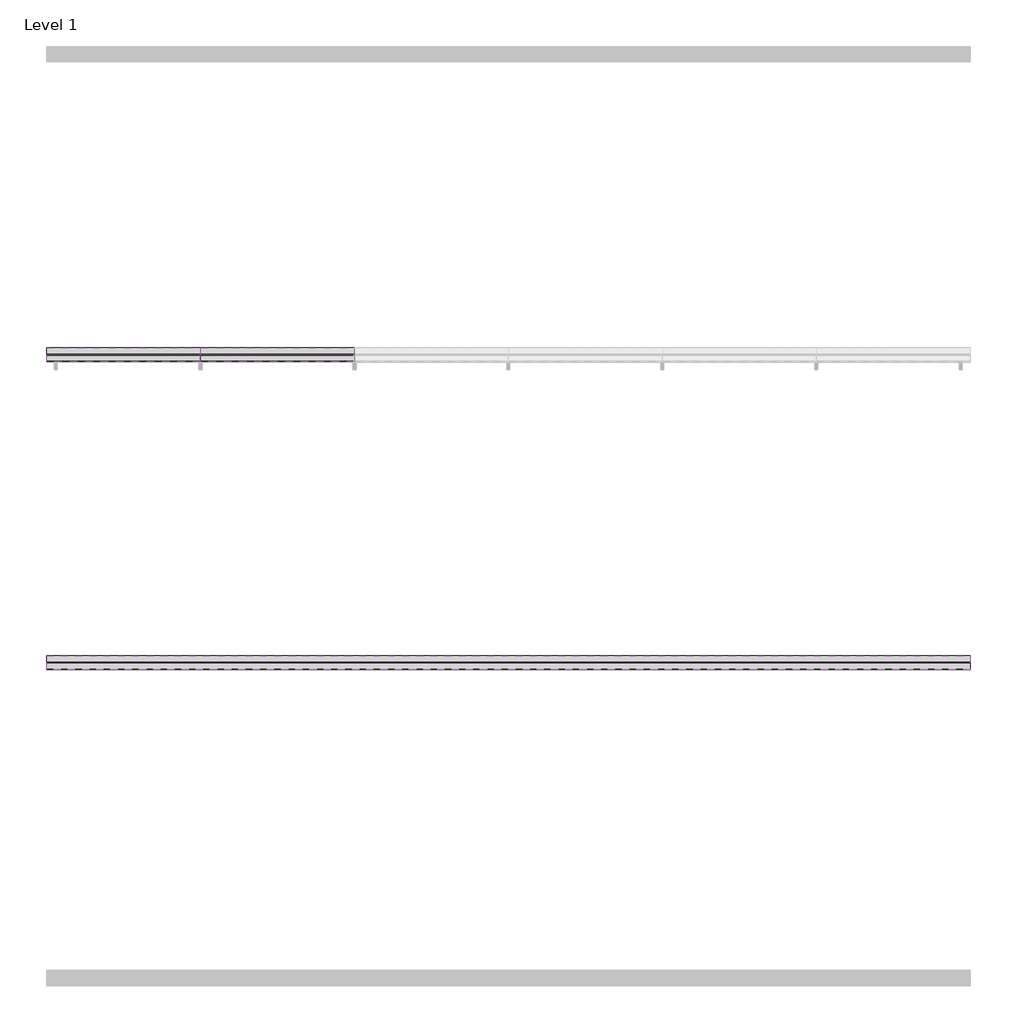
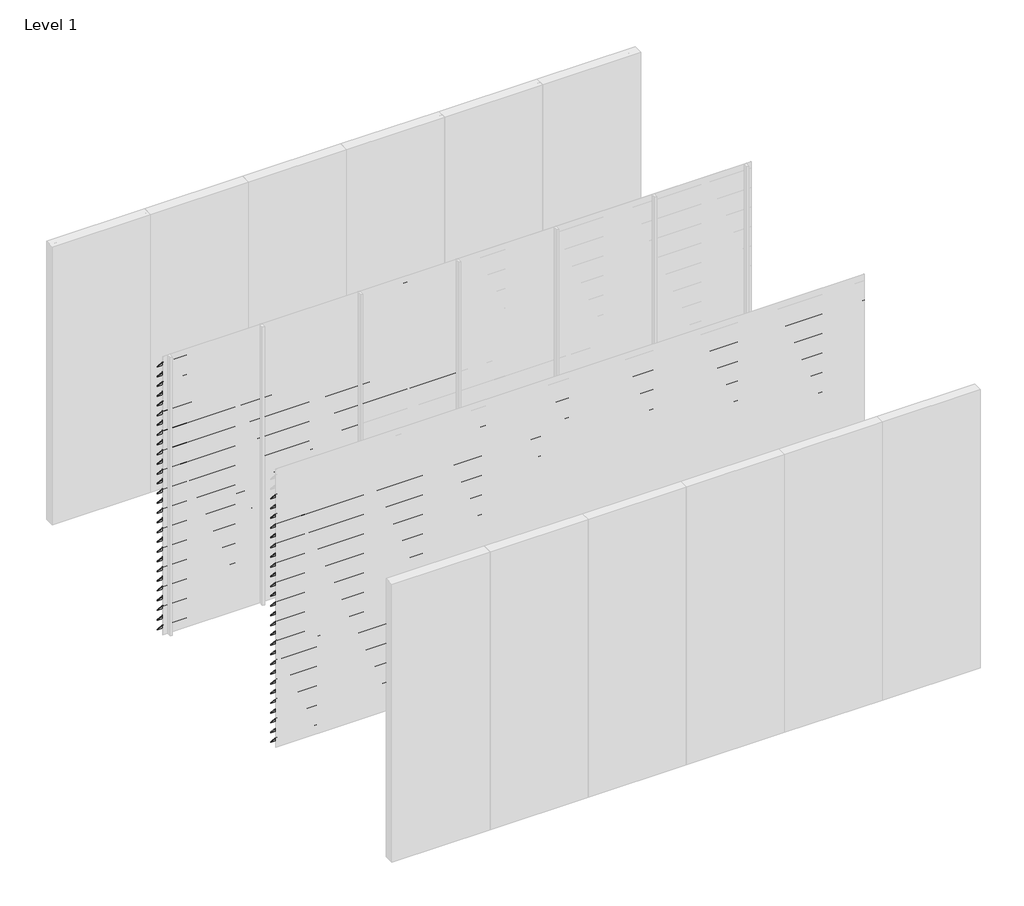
# One storey, part 6 of 9: 95 proxies.
"""IFC4 building model written with IfcOpenShell, lengths in millimetres."""

from ifc_helpers import new_model, si_unit, frame, origin, place, context, project, spatial, polyline, outline, extrude, element, save

model = new_model("IFC4")

# Units and contexts
model_context = context("Model", 3, world=origin())
ifc_project = project(units=[si_unit("LENGTHUNIT", "METRE", prefix="MILLI")], contexts=[model_context])

# Site, building, storey
site = spatial("IfcSite", under=ifc_project)
building = spatial("IfcBuilding", under=site)
storey = spatial("IfcBuildingStorey", under=building, Name="Level 1", Elevation=0.0)

# Proxies
placement = place(None, origin())
element("IfcBuildingElementProxy", 1, Name="Wall Sweeps", at=placement, inside=storey, context=model_context, shape_type="SweptSolid", body=[
    extrude(outline(polyline([(-5995.0, 2940.0), (-5995.0, 2935.6232888), (-5908.0, 2839.0), (-5908.0, 2829.0), (-5997.0, 2927.8445138), (-5997.0, 2940.0), (-5995.0, 2940.0)])), frame((0.0, 0.0, 0.0), z_axis=(1.0, 0.0, 0.0), x_axis=(0.0, 1.0, 0.0)), (0.0, 0.0, 1.0), 1000.0),
])
element("IfcBuildingElementProxy", 2, Name="Wall Sweeps", at=placement, inside=storey, context=model_context, shape_type="SweptSolid", body=[
    extrude(outline(polyline([(-5995.0, 2835.0), (-5995.0, 2830.6232888), (-5908.0, 2734.0), (-5908.0, 2724.0), (-5997.0, 2822.8445138), (-5997.0, 2835.0), (-5995.0, 2835.0)])), frame((0.0, 0.0, 0.0), z_axis=(1.0, 0.0, 0.0), x_axis=(0.0, 1.0, 0.0)), (0.0, 0.0, 1.0), 1000.0),
])
element("IfcBuildingElementProxy", 3, Name="Wall Sweeps", at=placement, inside=storey, context=model_context, shape_type="SweptSolid", body=[
    extrude(outline(polyline([(-5995.0, 2730.0), (-5995.0, 2725.6232888), (-5908.0, 2629.0), (-5908.0, 2619.0), (-5997.0, 2717.8445138), (-5997.0, 2730.0), (-5995.0, 2730.0)])), frame((0.0, 0.0, 0.0), z_axis=(1.0, 0.0, 0.0), x_axis=(0.0, 1.0, 0.0)), (0.0, 0.0, 1.0), 1000.0),
])
element("IfcBuildingElementProxy", 4, Name="Wall Sweeps", at=placement, inside=storey, context=model_context, shape_type="SweptSolid", body=[
    extrude(outline(polyline([(-5995.0, 2625.0), (-5995.0, 2620.6232888), (-5908.0, 2524.0), (-5908.0, 2514.0), (-5997.0, 2612.8445138), (-5997.0, 2625.0), (-5995.0, 2625.0)])), frame((0.0, 0.0, 0.0), z_axis=(1.0, 0.0, 0.0), x_axis=(0.0, 1.0, 0.0)), (0.0, 0.0, 1.0), 1000.0),
])
element("IfcBuildingElementProxy", 5, Name="Wall Sweeps", at=placement, inside=storey, context=model_context, shape_type="SweptSolid", body=[
    extrude(outline(polyline([(-5995.0, 2520.0), (-5995.0, 2515.6232888), (-5908.0, 2419.0), (-5908.0, 2409.0), (-5997.0, 2507.8445138), (-5997.0, 2520.0), (-5995.0, 2520.0)])), frame((0.0, 0.0, 0.0), z_axis=(1.0, 0.0, 0.0), x_axis=(0.0, 1.0, 0.0)), (0.0, 0.0, 1.0), 1000.0),
])
element("IfcBuildingElementProxy", 6, Name="Wall Sweeps", at=placement, inside=storey, context=model_context, shape_type="SweptSolid", body=[
    extrude(outline(polyline([(-5995.0, 2415.0), (-5995.0, 2410.6232888), (-5908.0, 2314.0), (-5908.0, 2304.0), (-5997.0, 2402.8445138), (-5997.0, 2415.0), (-5995.0, 2415.0)])), frame((0.0, 0.0, 0.0), z_axis=(1.0, 0.0, 0.0), x_axis=(0.0, 1.0, 0.0)), (0.0, 0.0, 1.0), 1000.0),
])
element("IfcBuildingElementProxy", 7, Name="Wall Sweeps", at=placement, inside=storey, context=model_context, shape_type="SweptSolid", body=[
    extrude(outline(polyline([(-5995.0, 2310.0), (-5995.0, 2305.6232888), (-5908.0, 2209.0), (-5908.0, 2199.0), (-5997.0, 2297.8445138), (-5997.0, 2310.0), (-5995.0, 2310.0)])), frame((0.0, 0.0, 0.0), z_axis=(1.0, 0.0, 0.0), x_axis=(0.0, 1.0, 0.0)), (0.0, 0.0, 1.0), 1000.0),
])
element("IfcBuildingElementProxy", 8, Name="Wall Sweeps", at=placement, inside=storey, context=model_context, shape_type="SweptSolid", body=[
    extrude(outline(polyline([(-5995.0, 2205.0), (-5995.0, 2200.6232888), (-5908.0, 2104.0), (-5908.0, 2094.0), (-5997.0, 2192.8445138), (-5997.0, 2205.0), (-5995.0, 2205.0)])), frame((0.0, 0.0, 0.0), z_axis=(1.0, 0.0, 0.0), x_axis=(0.0, 1.0, 0.0)), (0.0, 0.0, 1.0), 1000.0),
])
element("IfcBuildingElementProxy", 9, Name="Wall Sweeps", at=placement, inside=storey, context=model_context, shape_type="SweptSolid", body=[
    extrude(outline(polyline([(-5995.0, 2100.0), (-5995.0, 2095.6232888), (-5908.0, 1999.0), (-5908.0, 1989.0), (-5997.0, 2087.8445138), (-5997.0, 2100.0), (-5995.0, 2100.0)])), frame((0.0, 0.0, 0.0), z_axis=(1.0, 0.0, 0.0), x_axis=(0.0, 1.0, 0.0)), (0.0, 0.0, 1.0), 1000.0),
])
element("IfcBuildingElementProxy", 10, Name="Wall Sweeps", at=placement, inside=storey, context=model_context, shape_type="SweptSolid", body=[
    extrude(outline(polyline([(-5995.0, 1995.0), (-5995.0, 1990.6232888), (-5908.0, 1894.0), (-5908.0, 1884.0), (-5997.0, 1982.8445138), (-5997.0, 1995.0), (-5995.0, 1995.0)])), frame((0.0, 0.0, 0.0), z_axis=(1.0, 0.0, 0.0), x_axis=(0.0, 1.0, 0.0)), (0.0, 0.0, 1.0), 1000.0),
])
element("IfcBuildingElementProxy", 11, Name="Wall Sweeps", at=placement, inside=storey, context=model_context, shape_type="SweptSolid", body=[
    extrude(outline(polyline([(-5995.0, 1890.0), (-5995.0, 1885.6232888), (-5908.0, 1789.0), (-5908.0, 1779.0), (-5997.0, 1877.8445138), (-5997.0, 1890.0), (-5995.0, 1890.0)])), frame((0.0, 0.0, 0.0), z_axis=(1.0, 0.0, 0.0), x_axis=(0.0, 1.0, 0.0)), (0.0, 0.0, 1.0), 1000.0),
])
element("IfcBuildingElementProxy", 12, Name="Wall Sweeps", at=placement, inside=storey, context=model_context, shape_type="SweptSolid", body=[
    extrude(outline(polyline([(-5995.0, 1785.0), (-5995.0, 1780.6232888), (-5908.0, 1684.0), (-5908.0, 1674.0), (-5997.0, 1772.8445138), (-5997.0, 1785.0), (-5995.0, 1785.0)])), frame((0.0, 0.0, 0.0), z_axis=(1.0, 0.0, 0.0), x_axis=(0.0, 1.0, 0.0)), (0.0, 0.0, 1.0), 1000.0),
])
element("IfcBuildingElementProxy", 13, Name="Wall Sweeps", at=placement, inside=storey, context=model_context, shape_type="SweptSolid", body=[
    extrude(outline(polyline([(-5995.0, 1680.0), (-5995.0, 1675.6232888), (-5908.0, 1579.0), (-5908.0, 1569.0), (-5997.0, 1667.8445138), (-5997.0, 1680.0), (-5995.0, 1680.0)])), frame((0.0, 0.0, 0.0), z_axis=(1.0, 0.0, 0.0), x_axis=(0.0, 1.0, 0.0)), (0.0, 0.0, 1.0), 1000.0),
])
element("IfcBuildingElementProxy", 14, Name="Wall Sweeps", at=placement, inside=storey, context=model_context, shape_type="SweptSolid", body=[
    extrude(outline(polyline([(-5995.0, 1575.0), (-5995.0, 1570.6232888), (-5908.0, 1474.0), (-5908.0, 1464.0), (-5997.0, 1562.8445138), (-5997.0, 1575.0), (-5995.0, 1575.0)])), frame((0.0, 0.0, 0.0), z_axis=(1.0, 0.0, 0.0), x_axis=(0.0, 1.0, 0.0)), (0.0, 0.0, 1.0), 1000.0),
])
element("IfcBuildingElementProxy", 15, Name="Wall Sweeps", at=placement, inside=storey, context=model_context, shape_type="SweptSolid", body=[
    extrude(outline(polyline([(-5995.0, 1470.0), (-5995.0, 1465.6232888), (-5908.0, 1369.0), (-5908.0, 1359.0), (-5997.0, 1457.8445138), (-5997.0, 1470.0), (-5995.0, 1470.0)])), frame((0.0, 0.0, 0.0), z_axis=(1.0, 0.0, 0.0), x_axis=(0.0, 1.0, 0.0)), (0.0, 0.0, 1.0), 1000.0),
])
element("IfcBuildingElementProxy", 16, Name="Wall Sweeps", at=placement, inside=storey, context=model_context, shape_type="SweptSolid", body=[
    extrude(outline(polyline([(-5995.0, 1365.0), (-5995.0, 1360.6232888), (-5908.0, 1264.0), (-5908.0, 1254.0), (-5997.0, 1352.8445138), (-5997.0, 1365.0), (-5995.0, 1365.0)])), frame((0.0, 0.0, 0.0), z_axis=(1.0, 0.0, 0.0), x_axis=(0.0, 1.0, 0.0)), (0.0, 0.0, 1.0), 1000.0),
])
element("IfcBuildingElementProxy", 17, Name="Wall Sweeps", at=placement, inside=storey, context=model_context, shape_type="SweptSolid", body=[
    extrude(outline(polyline([(-5995.0, 1260.0), (-5995.0, 1255.6232888), (-5908.0, 1159.0), (-5908.0, 1149.0), (-5997.0, 1247.8445138), (-5997.0, 1260.0), (-5995.0, 1260.0)])), frame((0.0, 0.0, 0.0), z_axis=(1.0, 0.0, 0.0), x_axis=(0.0, 1.0, 0.0)), (0.0, 0.0, 1.0), 1000.0),
])
element("IfcBuildingElementProxy", 18, Name="Wall Sweeps", at=placement, inside=storey, context=model_context, shape_type="SweptSolid", body=[
    extrude(outline(polyline([(-5995.0, 1155.0), (-5995.0, 1150.6232888), (-5908.0, 1054.0), (-5908.0, 1044.0), (-5997.0, 1142.8445138), (-5997.0, 1155.0), (-5995.0, 1155.0)])), frame((0.0, 0.0, 0.0), z_axis=(1.0, 0.0, 0.0), x_axis=(0.0, 1.0, 0.0)), (0.0, 0.0, 1.0), 1000.0),
])
element("IfcBuildingElementProxy", 19, Name="Wall Sweeps", at=placement, inside=storey, context=model_context, shape_type="SweptSolid", body=[
    extrude(outline(polyline([(-5995.0, 1050.0), (-5995.0, 1045.6232888), (-5908.0, 949.0), (-5908.0, 939.0), (-5997.0, 1037.8445138), (-5997.0, 1050.0), (-5995.0, 1050.0)])), frame((0.0, 0.0, 0.0), z_axis=(1.0, 0.0, 0.0), x_axis=(0.0, 1.0, 0.0)), (0.0, 0.0, 1.0), 1000.0),
])
element("IfcBuildingElementProxy", 20, Name="Wall Sweeps", at=placement, inside=storey, context=model_context, shape_type="SweptSolid", body=[
    extrude(outline(polyline([(-5995.0, 945.0), (-5995.0, 940.6232888), (-5908.0, 844.0), (-5908.0, 834.0), (-5997.0, 932.8445138), (-5997.0, 945.0), (-5995.0, 945.0)])), frame((0.0, 0.0, 0.0), z_axis=(1.0, 0.0, 0.0), x_axis=(0.0, 1.0, 0.0)), (0.0, 0.0, 1.0), 1000.0),
])
element("IfcBuildingElementProxy", 21, Name="Wall Sweeps", at=placement, inside=storey, context=model_context, shape_type="SweptSolid", body=[
    extrude(outline(polyline([(-5995.0, 840.0), (-5995.0, 835.6232888), (-5908.0, 739.0), (-5908.0, 729.0), (-5997.0, 827.8445138), (-5997.0, 840.0), (-5995.0, 840.0)])), frame((0.0, 0.0, 0.0), z_axis=(1.0, 0.0, 0.0), x_axis=(0.0, 1.0, 0.0)), (0.0, 0.0, 1.0), 1000.0),
])
element("IfcBuildingElementProxy", 22, Name="Wall Sweeps", at=placement, inside=storey, context=model_context, shape_type="SweptSolid", body=[
    extrude(outline(polyline([(-5995.0, 735.0), (-5995.0, 730.6232888), (-5908.0, 634.0), (-5908.0, 624.0), (-5997.0, 722.8445138), (-5997.0, 735.0), (-5995.0, 735.0)])), frame((0.0, 0.0, 0.0), z_axis=(1.0, 0.0, 0.0), x_axis=(0.0, 1.0, 0.0)), (0.0, 0.0, 1.0), 1000.0),
])
element("IfcBuildingElementProxy", 23, Name="Wall Sweeps", at=placement, inside=storey, context=model_context, shape_type="SweptSolid", body=[
    extrude(outline(polyline([(-5995.0, 630.0), (-5995.0, 625.6232888), (-5908.0, 529.0), (-5908.0, 519.0), (-5997.0, 617.8445138), (-5997.0, 630.0), (-5995.0, 630.0)])), frame((0.0, 0.0, 0.0), z_axis=(1.0, 0.0, 0.0), x_axis=(0.0, 1.0, 0.0)), (0.0, 0.0, 1.0), 1000.0),
])
element("IfcBuildingElementProxy", 24, Name="Wall Sweeps", at=placement, inside=storey, context=model_context, shape_type="SweptSolid", body=[
    extrude(outline(polyline([(-5995.0, 525.0), (-5995.0, 520.6232888), (-5908.0, 424.0), (-5908.0, 414.0), (-5997.0, 512.8445138), (-5997.0, 525.0), (-5995.0, 525.0)])), frame((0.0, 0.0, 0.0), z_axis=(1.0, 0.0, 0.0), x_axis=(0.0, 1.0, 0.0)), (0.0, 0.0, 1.0), 1000.0),
])
element("IfcBuildingElementProxy", 25, Name="Wall Sweeps", at=placement, inside=storey, context=model_context, shape_type="SweptSolid", body=[
    extrude(outline(polyline([(-5995.0, 420.0), (-5995.0, 415.6232888), (-5908.0, 319.0), (-5908.0, 309.0), (-5997.0, 407.8445138), (-5997.0, 420.0), (-5995.0, 420.0)])), frame((0.0, 0.0, 0.0), z_axis=(1.0, 0.0, 0.0), x_axis=(0.0, 1.0, 0.0)), (0.0, 0.0, 1.0), 1000.0),
])
element("IfcBuildingElementProxy", 26, Name="Wall Sweeps", at=placement, inside=storey, context=model_context, shape_type="SweptSolid", body=[
    extrude(outline(polyline([(-5995.0, 315.0), (-5995.0, 310.6232888), (-5908.0, 214.0), (-5908.0, 204.0), (-5997.0, 302.8445138), (-5997.0, 315.0), (-5995.0, 315.0)])), frame((0.0, 0.0, 0.0), z_axis=(1.0, 0.0, 0.0), x_axis=(0.0, 1.0, 0.0)), (0.0, 0.0, 1.0), 1000.0),
])
element("IfcBuildingElementProxy", 27, Name="Wall Sweeps", at=placement, inside=storey, context=model_context, shape_type="SweptSolid", body=[
    extrude(outline(polyline([(-5995.0, 210.0), (-5995.0, 205.6232888), (-5908.0, 109.0), (-5908.0, 99.0), (-5997.0, 197.8445138), (-5997.0, 210.0), (-5995.0, 210.0)])), frame((0.0, 0.0, 0.0), z_axis=(1.0, 0.0, 0.0), x_axis=(0.0, 1.0, 0.0)), (0.0, 0.0, 1.0), 1000.0),
])
element("IfcBuildingElementProxy", 28, Name="Wall Sweeps", at=placement, inside=storey, context=model_context, shape_type="SweptSolid", body=[
    extrude(outline(polyline([(-5995.0, 105.0), (-5995.0, 100.6232888), (-5908.0, 4.0), (-5908.0, -6.0), (-5997.0, 92.8445138), (-5997.0, 105.0), (-5995.0, 105.0)])), frame((0.0, 0.0, 0.0), z_axis=(1.0, 0.0, 0.0), x_axis=(0.0, 1.0, 0.0)), (0.0, 0.0, 1.0), 1000.0),
])
element("IfcBuildingElementProxy", 29, Name="Wall Sweeps", at=placement, inside=storey, context=model_context, shape_type="SweptSolid", body=[
    extrude(outline(polyline([(-5995.0, 2940.0), (-5995.0, 2935.6232888), (-5908.0, 2839.0), (-5908.0, 2829.0), (-5997.0, 2927.8445138), (-5997.0, 2940.0), (-5995.0, 2940.0)])), frame((1000.0, 0.0, 0.0), z_axis=(1.0, 0.0, 0.0), x_axis=(0.0, 1.0, 0.0)), (0.0, 0.0, 1.0), 1000.0),
])
element("IfcBuildingElementProxy", 30, Name="Wall Sweeps", at=placement, inside=storey, context=model_context, shape_type="SweptSolid", body=[
    extrude(outline(polyline([(-5995.0, 2835.0), (-5995.0, 2830.6232888), (-5908.0, 2734.0), (-5908.0, 2724.0), (-5997.0, 2822.8445138), (-5997.0, 2835.0), (-5995.0, 2835.0)])), frame((1000.0, 0.0, 0.0), z_axis=(1.0, 0.0, 0.0), x_axis=(0.0, 1.0, 0.0)), (0.0, 0.0, 1.0), 1000.0),
])
element("IfcBuildingElementProxy", 31, Name="Wall Sweeps", at=placement, inside=storey, context=model_context, shape_type="SweptSolid", body=[
    extrude(outline(polyline([(-5995.0, 2730.0), (-5995.0, 2725.6232888), (-5908.0, 2629.0), (-5908.0, 2619.0), (-5997.0, 2717.8445138), (-5997.0, 2730.0), (-5995.0, 2730.0)])), frame((1000.0, 0.0, 0.0), z_axis=(1.0, 0.0, 0.0), x_axis=(0.0, 1.0, 0.0)), (0.0, 0.0, 1.0), 1000.0),
])
element("IfcBuildingElementProxy", 32, Name="Wall Sweeps", at=placement, inside=storey, context=model_context, shape_type="SweptSolid", body=[
    extrude(outline(polyline([(-5995.0, 2625.0), (-5995.0, 2620.6232888), (-5908.0, 2524.0), (-5908.0, 2514.0), (-5997.0, 2612.8445138), (-5997.0, 2625.0), (-5995.0, 2625.0)])), frame((1000.0, 0.0, 0.0), z_axis=(1.0, 0.0, 0.0), x_axis=(0.0, 1.0, 0.0)), (0.0, 0.0, 1.0), 1000.0),
])
element("IfcBuildingElementProxy", 33, Name="Wall Sweeps", at=placement, inside=storey, context=model_context, shape_type="SweptSolid", body=[
    extrude(outline(polyline([(-5995.0, 2520.0), (-5995.0, 2515.6232888), (-5908.0, 2419.0), (-5908.0, 2409.0), (-5997.0, 2507.8445138), (-5997.0, 2520.0), (-5995.0, 2520.0)])), frame((1000.0, 0.0, 0.0), z_axis=(1.0, 0.0, 0.0), x_axis=(0.0, 1.0, 0.0)), (0.0, 0.0, 1.0), 1000.0),
])
element("IfcBuildingElementProxy", 34, Name="Wall Sweeps", at=placement, inside=storey, context=model_context, shape_type="SweptSolid", body=[
    extrude(outline(polyline([(-5995.0, 2415.0), (-5995.0, 2410.6232888), (-5908.0, 2314.0), (-5908.0, 2304.0), (-5997.0, 2402.8445138), (-5997.0, 2415.0), (-5995.0, 2415.0)])), frame((1000.0, 0.0, 0.0), z_axis=(1.0, 0.0, 0.0), x_axis=(0.0, 1.0, 0.0)), (0.0, 0.0, 1.0), 1000.0),
])
element("IfcBuildingElementProxy", 35, Name="Wall Sweeps", at=placement, inside=storey, context=model_context, shape_type="SweptSolid", body=[
    extrude(outline(polyline([(-5995.0, 2310.0), (-5995.0, 2305.6232888), (-5908.0, 2209.0), (-5908.0, 2199.0), (-5997.0, 2297.8445138), (-5997.0, 2310.0), (-5995.0, 2310.0)])), frame((1000.0, 0.0, 0.0), z_axis=(1.0, 0.0, 0.0), x_axis=(0.0, 1.0, 0.0)), (0.0, 0.0, 1.0), 1000.0),
])
element("IfcBuildingElementProxy", 36, Name="Wall Sweeps", at=placement, inside=storey, context=model_context, shape_type="SweptSolid", body=[
    extrude(outline(polyline([(-5995.0, 2205.0), (-5995.0, 2200.6232888), (-5908.0, 2104.0), (-5908.0, 2094.0), (-5997.0, 2192.8445138), (-5997.0, 2205.0), (-5995.0, 2205.0)])), frame((1000.0, 0.0, 0.0), z_axis=(1.0, 0.0, 0.0), x_axis=(0.0, 1.0, 0.0)), (0.0, 0.0, 1.0), 1000.0),
])
element("IfcBuildingElementProxy", 37, Name="Wall Sweeps", at=placement, inside=storey, context=model_context, shape_type="SweptSolid", body=[
    extrude(outline(polyline([(-5995.0, 2100.0), (-5995.0, 2095.6232888), (-5908.0, 1999.0), (-5908.0, 1989.0), (-5997.0, 2087.8445138), (-5997.0, 2100.0), (-5995.0, 2100.0)])), frame((1000.0, 0.0, 0.0), z_axis=(1.0, 0.0, 0.0), x_axis=(0.0, 1.0, 0.0)), (0.0, 0.0, 1.0), 1000.0),
])
element("IfcBuildingElementProxy", 38, Name="Wall Sweeps", at=placement, inside=storey, context=model_context, shape_type="SweptSolid", body=[
    extrude(outline(polyline([(-5995.0, 1995.0), (-5995.0, 1990.6232888), (-5908.0, 1894.0), (-5908.0, 1884.0), (-5997.0, 1982.8445138), (-5997.0, 1995.0), (-5995.0, 1995.0)])), frame((1000.0, 0.0, 0.0), z_axis=(1.0, 0.0, 0.0), x_axis=(0.0, 1.0, 0.0)), (0.0, 0.0, 1.0), 1000.0),
])
element("IfcBuildingElementProxy", 39, Name="Wall Sweeps", at=placement, inside=storey, context=model_context, shape_type="SweptSolid", body=[
    extrude(outline(polyline([(-5995.0, 1890.0), (-5995.0, 1885.6232888), (-5908.0, 1789.0), (-5908.0, 1779.0), (-5997.0, 1877.8445138), (-5997.0, 1890.0), (-5995.0, 1890.0)])), frame((1000.0, 0.0, 0.0), z_axis=(1.0, 0.0, 0.0), x_axis=(0.0, 1.0, 0.0)), (0.0, 0.0, 1.0), 1000.0),
])
element("IfcBuildingElementProxy", 40, Name="Wall Sweeps", at=placement, inside=storey, context=model_context, shape_type="SweptSolid", body=[
    extrude(outline(polyline([(-5995.0, 1785.0), (-5995.0, 1780.6232888), (-5908.0, 1684.0), (-5908.0, 1674.0), (-5997.0, 1772.8445138), (-5997.0, 1785.0), (-5995.0, 1785.0)])), frame((1000.0, 0.0, 0.0), z_axis=(1.0, 0.0, 0.0), x_axis=(0.0, 1.0, 0.0)), (0.0, 0.0, 1.0), 1000.0),
])
element("IfcBuildingElementProxy", 41, Name="Wall Sweeps", at=placement, inside=storey, context=model_context, shape_type="SweptSolid", body=[
    extrude(outline(polyline([(-5995.0, 1680.0), (-5995.0, 1675.6232888), (-5908.0, 1579.0), (-5908.0, 1569.0), (-5997.0, 1667.8445138), (-5997.0, 1680.0), (-5995.0, 1680.0)])), frame((1000.0, 0.0, 0.0), z_axis=(1.0, 0.0, 0.0), x_axis=(0.0, 1.0, 0.0)), (0.0, 0.0, 1.0), 1000.0),
])
element("IfcBuildingElementProxy", 42, Name="Wall Sweeps", at=placement, inside=storey, context=model_context, shape_type="SweptSolid", body=[
    extrude(outline(polyline([(-5995.0, 1575.0), (-5995.0, 1570.6232888), (-5908.0, 1474.0), (-5908.0, 1464.0), (-5997.0, 1562.8445138), (-5997.0, 1575.0), (-5995.0, 1575.0)])), frame((1000.0, 0.0, 0.0), z_axis=(1.0, 0.0, 0.0), x_axis=(0.0, 1.0, 0.0)), (0.0, 0.0, 1.0), 1000.0),
])
element("IfcBuildingElementProxy", 43, Name="Wall Sweeps", at=placement, inside=storey, context=model_context, shape_type="SweptSolid", body=[
    extrude(outline(polyline([(-5995.0, 1470.0), (-5995.0, 1465.6232888), (-5908.0, 1369.0), (-5908.0, 1359.0), (-5997.0, 1457.8445138), (-5997.0, 1470.0), (-5995.0, 1470.0)])), frame((1000.0, 0.0, 0.0), z_axis=(1.0, 0.0, 0.0), x_axis=(0.0, 1.0, 0.0)), (0.0, 0.0, 1.0), 1000.0),
])
element("IfcBuildingElementProxy", 44, Name="Wall Sweeps", at=placement, inside=storey, context=model_context, shape_type="SweptSolid", body=[
    extrude(outline(polyline([(-5995.0, 1365.0), (-5995.0, 1360.6232888), (-5908.0, 1264.0), (-5908.0, 1254.0), (-5997.0, 1352.8445138), (-5997.0, 1365.0), (-5995.0, 1365.0)])), frame((1000.0, 0.0, 0.0), z_axis=(1.0, 0.0, 0.0), x_axis=(0.0, 1.0, 0.0)), (0.0, 0.0, 1.0), 1000.0),
])
element("IfcBuildingElementProxy", 45, Name="Wall Sweeps", at=placement, inside=storey, context=model_context, shape_type="SweptSolid", body=[
    extrude(outline(polyline([(-5995.0, 1260.0), (-5995.0, 1255.6232888), (-5908.0, 1159.0), (-5908.0, 1149.0), (-5997.0, 1247.8445138), (-5997.0, 1260.0), (-5995.0, 1260.0)])), frame((1000.0, 0.0, 0.0), z_axis=(1.0, 0.0, 0.0), x_axis=(0.0, 1.0, 0.0)), (0.0, 0.0, 1.0), 1000.0),
])
element("IfcBuildingElementProxy", 46, Name="Wall Sweeps", at=placement, inside=storey, context=model_context, shape_type="SweptSolid", body=[
    extrude(outline(polyline([(-5995.0, 1155.0), (-5995.0, 1150.6232888), (-5908.0, 1054.0), (-5908.0, 1044.0), (-5997.0, 1142.8445138), (-5997.0, 1155.0), (-5995.0, 1155.0)])), frame((1000.0, 0.0, 0.0), z_axis=(1.0, 0.0, 0.0), x_axis=(0.0, 1.0, 0.0)), (0.0, 0.0, 1.0), 1000.0),
])
element("IfcBuildingElementProxy", 47, Name="Wall Sweeps", at=placement, inside=storey, context=model_context, shape_type="SweptSolid", body=[
    extrude(outline(polyline([(-5995.0, 1050.0), (-5995.0, 1045.6232888), (-5908.0, 949.0), (-5908.0, 939.0), (-5997.0, 1037.8445138), (-5997.0, 1050.0), (-5995.0, 1050.0)])), frame((1000.0, 0.0, 0.0), z_axis=(1.0, 0.0, 0.0), x_axis=(0.0, 1.0, 0.0)), (0.0, 0.0, 1.0), 1000.0),
])
element("IfcBuildingElementProxy", 48, Name="Wall Sweeps", at=placement, inside=storey, context=model_context, shape_type="SweptSolid", body=[
    extrude(outline(polyline([(-5995.0, 945.0), (-5995.0, 940.6232888), (-5908.0, 844.0), (-5908.0, 834.0), (-5997.0, 932.8445138), (-5997.0, 945.0), (-5995.0, 945.0)])), frame((1000.0, 0.0, 0.0), z_axis=(1.0, 0.0, 0.0), x_axis=(0.0, 1.0, 0.0)), (0.0, 0.0, 1.0), 1000.0),
])
element("IfcBuildingElementProxy", 49, Name="Wall Sweeps", at=placement, inside=storey, context=model_context, shape_type="SweptSolid", body=[
    extrude(outline(polyline([(-5995.0, 840.0), (-5995.0, 835.6232888), (-5908.0, 739.0), (-5908.0, 729.0), (-5997.0, 827.8445138), (-5997.0, 840.0), (-5995.0, 840.0)])), frame((1000.0, 0.0, 0.0), z_axis=(1.0, 0.0, 0.0), x_axis=(0.0, 1.0, 0.0)), (0.0, 0.0, 1.0), 1000.0),
])
element("IfcBuildingElementProxy", 50, Name="Wall Sweeps", at=placement, inside=storey, context=model_context, shape_type="SweptSolid", body=[
    extrude(outline(polyline([(-5995.0, 735.0), (-5995.0, 730.6232888), (-5908.0, 634.0), (-5908.0, 624.0), (-5997.0, 722.8445138), (-5997.0, 735.0), (-5995.0, 735.0)])), frame((1000.0, 0.0, 0.0), z_axis=(1.0, 0.0, 0.0), x_axis=(0.0, 1.0, 0.0)), (0.0, 0.0, 1.0), 1000.0),
])
element("IfcBuildingElementProxy", 51, Name="Wall Sweeps", at=placement, inside=storey, context=model_context, shape_type="SweptSolid", body=[
    extrude(outline(polyline([(-5995.0, 630.0), (-5995.0, 625.6232888), (-5908.0, 529.0), (-5908.0, 519.0), (-5997.0, 617.8445138), (-5997.0, 630.0), (-5995.0, 630.0)])), frame((1000.0, 0.0, 0.0), z_axis=(1.0, 0.0, 0.0), x_axis=(0.0, 1.0, 0.0)), (0.0, 0.0, 1.0), 1000.0),
])
element("IfcBuildingElementProxy", 52, Name="Wall Sweeps", at=placement, inside=storey, context=model_context, shape_type="SweptSolid", body=[
    extrude(outline(polyline([(-5995.0, 525.0), (-5995.0, 520.6232888), (-5908.0, 424.0), (-5908.0, 414.0), (-5997.0, 512.8445138), (-5997.0, 525.0), (-5995.0, 525.0)])), frame((1000.0, 0.0, 0.0), z_axis=(1.0, 0.0, 0.0), x_axis=(0.0, 1.0, 0.0)), (0.0, 0.0, 1.0), 1000.0),
])
element("IfcBuildingElementProxy", 53, Name="Wall Sweeps", at=placement, inside=storey, context=model_context, shape_type="SweptSolid", body=[
    extrude(outline(polyline([(-5995.0, 420.0), (-5995.0, 415.6232888), (-5908.0, 319.0), (-5908.0, 309.0), (-5997.0, 407.8445138), (-5997.0, 420.0), (-5995.0, 420.0)])), frame((1000.0, 0.0, 0.0), z_axis=(1.0, 0.0, 0.0), x_axis=(0.0, 1.0, 0.0)), (0.0, 0.0, 1.0), 1000.0),
])
element("IfcBuildingElementProxy", 54, Name="Wall Sweeps", at=placement, inside=storey, context=model_context, shape_type="SweptSolid", body=[
    extrude(outline(polyline([(-5995.0, 315.0), (-5995.0, 310.6232888), (-5908.0, 214.0), (-5908.0, 204.0), (-5997.0, 302.8445138), (-5997.0, 315.0), (-5995.0, 315.0)])), frame((1000.0, 0.0, 0.0), z_axis=(1.0, 0.0, 0.0), x_axis=(0.0, 1.0, 0.0)), (0.0, 0.0, 1.0), 1000.0),
])
element("IfcBuildingElementProxy", 55, Name="Wall Sweeps", at=placement, inside=storey, context=model_context, shape_type="SweptSolid", body=[
    extrude(outline(polyline([(-5995.0, 210.0), (-5995.0, 205.6232888), (-5908.0, 109.0), (-5908.0, 99.0), (-5997.0, 197.8445138), (-5997.0, 210.0), (-5995.0, 210.0)])), frame((1000.0, 0.0, 0.0), z_axis=(1.0, 0.0, 0.0), x_axis=(0.0, 1.0, 0.0)), (0.0, 0.0, 1.0), 1000.0),
])
element("IfcBuildingElementProxy", 56, Name="Wall Sweeps", at=placement, inside=storey, context=model_context, shape_type="SweptSolid", body=[
    extrude(outline(polyline([(-5995.0, 105.0), (-5995.0, 100.6232888), (-5908.0, 4.0), (-5908.0, -6.0), (-5997.0, 92.8445138), (-5997.0, 105.0), (-5995.0, 105.0)])), frame((1000.0, 0.0, 0.0), z_axis=(1.0, 0.0, 0.0), x_axis=(0.0, 1.0, 0.0)), (0.0, 0.0, 1.0), 1000.0),
])
element("IfcBuildingElementProxy", 57, Name="Wall Sweeps", at=placement, inside=storey, context=model_context, shape_type="SweptSolid", body=[
    extrude(outline(polyline([(-5995.0, 2940.0), (-5995.0, 2935.6232888), (-5908.0, 2839.0), (-5908.0, 2829.0), (-5997.0, 2927.8445138), (-5997.0, 2940.0), (-5995.0, 2940.0)])), frame((2000.0, 0.0, 0.0), z_axis=(1.0, 0.0, 0.0), x_axis=(0.0, 1.0, 0.0)), (0.0, 0.0, 1.0), 1000.0),
])
element("IfcBuildingElementProxy", 58, Name="Wall Sweeps", at=placement, inside=storey, context=model_context, shape_type="SweptSolid", body=[
    extrude(outline(polyline([(-5995.0, 2835.0), (-5995.0, 2830.6232888), (-5908.0, 2734.0), (-5908.0, 2724.0), (-5997.0, 2822.8445138), (-5997.0, 2835.0), (-5995.0, 2835.0)])), frame((2000.0, 0.0, 0.0), z_axis=(1.0, 0.0, 0.0), x_axis=(0.0, 1.0, 0.0)), (0.0, 0.0, 1.0), 1000.0),
])
element("IfcBuildingElementProxy", 59, Name="Wall Sweeps", at=placement, inside=storey, context=model_context, shape_type="SweptSolid", body=[
    extrude(outline(polyline([(-5995.0, 2730.0), (-5995.0, 2725.6232888), (-5908.0, 2629.0), (-5908.0, 2619.0), (-5997.0, 2717.8445138), (-5997.0, 2730.0), (-5995.0, 2730.0)])), frame((2000.0, 0.0, 0.0), z_axis=(1.0, 0.0, 0.0), x_axis=(0.0, 1.0, 0.0)), (0.0, 0.0, 1.0), 1000.0),
])
element("IfcBuildingElementProxy", 60, Name="Wall Sweeps", at=placement, inside=storey, context=model_context, shape_type="SweptSolid", body=[
    extrude(outline(polyline([(-5995.0, 2625.0), (-5995.0, 2620.6232888), (-5908.0, 2524.0), (-5908.0, 2514.0), (-5997.0, 2612.8445138), (-5997.0, 2625.0), (-5995.0, 2625.0)])), frame((2000.0, 0.0, 0.0), z_axis=(1.0, 0.0, 0.0), x_axis=(0.0, 1.0, 0.0)), (0.0, 0.0, 1.0), 1000.0),
])
element("IfcBuildingElementProxy", 61, Name="Wall Sweeps", at=placement, inside=storey, context=model_context, shape_type="SweptSolid", body=[
    extrude(outline(polyline([(-5995.0, 2520.0), (-5995.0, 2515.6232888), (-5908.0, 2419.0), (-5908.0, 2409.0), (-5997.0, 2507.8445138), (-5997.0, 2520.0), (-5995.0, 2520.0)])), frame((2000.0, 0.0, 0.0), z_axis=(1.0, 0.0, 0.0), x_axis=(0.0, 1.0, 0.0)), (0.0, 0.0, 1.0), 1000.0),
])
element("IfcBuildingElementProxy", 62, Name="Wall Sweeps", at=placement, inside=storey, context=model_context, shape_type="SweptSolid", body=[
    extrude(outline(polyline([(-5995.0, 2415.0), (-5995.0, 2410.6232888), (-5908.0, 2314.0), (-5908.0, 2304.0), (-5997.0, 2402.8445138), (-5997.0, 2415.0), (-5995.0, 2415.0)])), frame((2000.0, 0.0, 0.0), z_axis=(1.0, 0.0, 0.0), x_axis=(0.0, 1.0, 0.0)), (0.0, 0.0, 1.0), 1000.0),
])
element("IfcBuildingElementProxy", 63, Name="Wall Sweeps", at=placement, inside=storey, context=model_context, shape_type="SweptSolid", body=[
    extrude(outline(polyline([(-5995.0, 2310.0), (-5995.0, 2305.6232888), (-5908.0, 2209.0), (-5908.0, 2199.0), (-5997.0, 2297.8445138), (-5997.0, 2310.0), (-5995.0, 2310.0)])), frame((2000.0, 0.0, 0.0), z_axis=(1.0, 0.0, 0.0), x_axis=(0.0, 1.0, 0.0)), (0.0, 0.0, 1.0), 1000.0),
])
element("IfcBuildingElementProxy", 64, Name="Wall Sweeps", at=placement, inside=storey, context=model_context, shape_type="SweptSolid", body=[
    extrude(outline(polyline([(-5995.0, 2205.0), (-5995.0, 2200.6232888), (-5908.0, 2104.0), (-5908.0, 2094.0), (-5997.0, 2192.8445138), (-5997.0, 2205.0), (-5995.0, 2205.0)])), frame((2000.0, 0.0, 0.0), z_axis=(1.0, 0.0, 0.0), x_axis=(0.0, 1.0, 0.0)), (0.0, 0.0, 1.0), 1000.0),
])
element("IfcBuildingElementProxy", 65, Name="Wall Sweeps", at=placement, inside=storey, context=model_context, shape_type="SweptSolid", body=[
    extrude(outline(polyline([(-5995.0, 2100.0), (-5995.0, 2095.6232888), (-5908.0, 1999.0), (-5908.0, 1989.0), (-5997.0, 2087.8445138), (-5997.0, 2100.0), (-5995.0, 2100.0)])), frame((2000.0, 0.0, 0.0), z_axis=(1.0, 0.0, 0.0), x_axis=(0.0, 1.0, 0.0)), (0.0, 0.0, 1.0), 1000.0),
])
element("IfcBuildingElementProxy", 66, Name="Wall Sweeps", at=placement, inside=storey, context=model_context, shape_type="SweptSolid", body=[
    extrude(outline(polyline([(-5995.0, 1995.0), (-5995.0, 1990.6232888), (-5908.0, 1894.0), (-5908.0, 1884.0), (-5997.0, 1982.8445138), (-5997.0, 1995.0), (-5995.0, 1995.0)])), frame((2000.0, 0.0, 0.0), z_axis=(1.0, 0.0, 0.0), x_axis=(0.0, 1.0, 0.0)), (0.0, 0.0, 1.0), 1000.0),
])
element("IfcBuildingElementProxy", 67, Name="Wall Sweeps", at=placement, inside=storey, context=model_context, shape_type="SweptSolid", body=[
    extrude(outline(polyline([(-5995.0, 1890.0), (-5995.0, 1885.6232888), (-5908.0, 1789.0), (-5908.0, 1779.0), (-5997.0, 1877.8445138), (-5997.0, 1890.0), (-5995.0, 1890.0)])), frame((2000.0, 0.0, 0.0), z_axis=(1.0, 0.0, 0.0), x_axis=(0.0, 1.0, 0.0)), (0.0, 0.0, 1.0), 1000.0),
])
element("IfcBuildingElementProxy", 68, Name="Wall Sweeps", at=placement, inside=storey, context=model_context, shape_type="SweptSolid", body=[
    extrude(outline(polyline([(-5995.0, 1785.0), (-5995.0, 1780.6232888), (-5908.0, 1684.0), (-5908.0, 1674.0), (-5997.0, 1772.8445138), (-5997.0, 1785.0), (-5995.0, 1785.0)])), frame((2000.0, 0.0, 0.0), z_axis=(1.0, 0.0, 0.0), x_axis=(0.0, 1.0, 0.0)), (0.0, 0.0, 1.0), 1000.0),
])
element("IfcBuildingElementProxy", 69, Name="Wall Sweeps", at=placement, inside=storey, context=model_context, shape_type="SweptSolid", body=[
    extrude(outline(polyline([(-5995.0, 1680.0), (-5995.0, 1675.6232888), (-5908.0, 1579.0), (-5908.0, 1569.0), (-5997.0, 1667.8445138), (-5997.0, 1680.0), (-5995.0, 1680.0)])), frame((2000.0, 0.0, 0.0), z_axis=(1.0, 0.0, 0.0), x_axis=(0.0, 1.0, 0.0)), (0.0, 0.0, 1.0), 1000.0),
])
element("IfcBuildingElementProxy", 70, Name="Wall Sweeps", at=placement, inside=storey, context=model_context, shape_type="SweptSolid", body=[
    extrude(outline(polyline([(-7995.0, 2730.0), (-7995.0, 2725.6232888), (-7908.0, 2629.0), (-7908.0, 2619.0), (-7997.0, 2717.8445138), (-7997.0, 2730.0), (-7995.0, 2730.0)])), frame((0.0, 0.0, 0.0), z_axis=(1.0, 0.0, 0.0), x_axis=(0.0, 1.0, 0.0)), (0.0, 0.0, 1.0), 6000.0),
])
element("IfcBuildingElementProxy", 71, Name="Wall Sweeps", at=placement, inside=storey, context=model_context, shape_type="SweptSolid", body=[
    extrude(outline(polyline([(-7995.0, 2625.0), (-7995.0, 2620.6232888), (-7908.0, 2524.0), (-7908.0, 2514.0), (-7997.0, 2612.8445138), (-7997.0, 2625.0), (-7995.0, 2625.0)])), frame((0.0, 0.0, 0.0), z_axis=(1.0, 0.0, 0.0), x_axis=(0.0, 1.0, 0.0)), (0.0, 0.0, 1.0), 6000.0),
])
element("IfcBuildingElementProxy", 72, Name="Wall Sweeps", at=placement, inside=storey, context=model_context, shape_type="SweptSolid", body=[
    extrude(outline(polyline([(-7995.0, 2520.0), (-7995.0, 2515.6232888), (-7908.0, 2419.0), (-7908.0, 2409.0), (-7997.0, 2507.8445138), (-7997.0, 2520.0), (-7995.0, 2520.0)])), frame((0.0, 0.0, 0.0), z_axis=(1.0, 0.0, 0.0), x_axis=(0.0, 1.0, 0.0)), (0.0, 0.0, 1.0), 6000.0),
])
element("IfcBuildingElementProxy", 73, Name="Wall Sweeps", at=placement, inside=storey, context=model_context, shape_type="SweptSolid", body=[
    extrude(outline(polyline([(-7995.0, 2415.0), (-7995.0, 2410.6232888), (-7908.0, 2314.0), (-7908.0, 2304.0), (-7997.0, 2402.8445138), (-7997.0, 2415.0), (-7995.0, 2415.0)])), frame((0.0, 0.0, 0.0), z_axis=(1.0, 0.0, 0.0), x_axis=(0.0, 1.0, 0.0)), (0.0, 0.0, 1.0), 6000.0),
])
element("IfcBuildingElementProxy", 74, Name="Wall Sweeps", at=placement, inside=storey, context=model_context, shape_type="SweptSolid", body=[
    extrude(outline(polyline([(-7995.0, 2310.0), (-7995.0, 2305.6232888), (-7908.0, 2209.0), (-7908.0, 2199.0), (-7997.0, 2297.8445138), (-7997.0, 2310.0), (-7995.0, 2310.0)])), frame((0.0, 0.0, 0.0), z_axis=(1.0, 0.0, 0.0), x_axis=(0.0, 1.0, 0.0)), (0.0, 0.0, 1.0), 6000.0),
])
element("IfcBuildingElementProxy", 75, Name="Wall Sweeps", at=placement, inside=storey, context=model_context, shape_type="SweptSolid", body=[
    extrude(outline(polyline([(-7995.0, 2205.0), (-7995.0, 2200.6232888), (-7908.0, 2104.0), (-7908.0, 2094.0), (-7997.0, 2192.8445138), (-7997.0, 2205.0), (-7995.0, 2205.0)])), frame((0.0, 0.0, 0.0), z_axis=(1.0, 0.0, 0.0), x_axis=(0.0, 1.0, 0.0)), (0.0, 0.0, 1.0), 6000.0),
])
element("IfcBuildingElementProxy", 76, Name="Wall Sweeps", at=placement, inside=storey, context=model_context, shape_type="SweptSolid", body=[
    extrude(outline(polyline([(-7995.0, 2100.0), (-7995.0, 2095.6232888), (-7908.0, 1999.0), (-7908.0, 1989.0), (-7997.0, 2087.8445138), (-7997.0, 2100.0), (-7995.0, 2100.0)])), frame((0.0, 0.0, 0.0), z_axis=(1.0, 0.0, 0.0), x_axis=(0.0, 1.0, 0.0)), (0.0, 0.0, 1.0), 6000.0),
])
element("IfcBuildingElementProxy", 77, Name="Wall Sweeps", at=placement, inside=storey, context=model_context, shape_type="SweptSolid", body=[
    extrude(outline(polyline([(-7995.0, 1995.0), (-7995.0, 1990.6232888), (-7908.0, 1894.0), (-7908.0, 1884.0), (-7997.0, 1982.8445138), (-7997.0, 1995.0), (-7995.0, 1995.0)])), frame((0.0, 0.0, 0.0), z_axis=(1.0, 0.0, 0.0), x_axis=(0.0, 1.0, 0.0)), (0.0, 0.0, 1.0), 6000.0),
])
element("IfcBuildingElementProxy", 78, Name="Wall Sweeps", at=placement, inside=storey, context=model_context, shape_type="SweptSolid", body=[
    extrude(outline(polyline([(-7995.0, 1890.0), (-7995.0, 1885.6232888), (-7908.0, 1789.0), (-7908.0, 1779.0), (-7997.0, 1877.8445138), (-7997.0, 1890.0), (-7995.0, 1890.0)])), frame((0.0, 0.0, 0.0), z_axis=(1.0, 0.0, 0.0), x_axis=(0.0, 1.0, 0.0)), (0.0, 0.0, 1.0), 6000.0),
])
element("IfcBuildingElementProxy", 79, Name="Wall Sweeps", at=placement, inside=storey, context=model_context, shape_type="SweptSolid", body=[
    extrude(outline(polyline([(-7995.0, 1785.0), (-7995.0, 1780.6232888), (-7908.0, 1684.0), (-7908.0, 1674.0), (-7997.0, 1772.8445138), (-7997.0, 1785.0), (-7995.0, 1785.0)])), frame((0.0, 0.0, 0.0), z_axis=(1.0, 0.0, 0.0), x_axis=(0.0, 1.0, 0.0)), (0.0, 0.0, 1.0), 6000.0),
])
element("IfcBuildingElementProxy", 80, Name="Wall Sweeps", at=placement, inside=storey, context=model_context, shape_type="SweptSolid", body=[
    extrude(outline(polyline([(-7995.0, 1680.0), (-7995.0, 1675.6232888), (-7908.0, 1579.0), (-7908.0, 1569.0), (-7997.0, 1667.8445138), (-7997.0, 1680.0), (-7995.0, 1680.0)])), frame((0.0, 0.0, 0.0), z_axis=(1.0, 0.0, 0.0), x_axis=(0.0, 1.0, 0.0)), (0.0, 0.0, 1.0), 6000.0),
])
element("IfcBuildingElementProxy", 81, Name="Wall Sweeps", at=placement, inside=storey, context=model_context, shape_type="SweptSolid", body=[
    extrude(outline(polyline([(-7995.0, 1575.0), (-7995.0, 1570.6232888), (-7908.0, 1474.0), (-7908.0, 1464.0), (-7997.0, 1562.8445138), (-7997.0, 1575.0), (-7995.0, 1575.0)])), frame((0.0, 0.0, 0.0), z_axis=(1.0, 0.0, 0.0), x_axis=(0.0, 1.0, 0.0)), (0.0, 0.0, 1.0), 6000.0),
])
element("IfcBuildingElementProxy", 82, Name="Wall Sweeps", at=placement, inside=storey, context=model_context, shape_type="SweptSolid", body=[
    extrude(outline(polyline([(-7995.0, 1470.0), (-7995.0, 1465.6232888), (-7908.0, 1369.0), (-7908.0, 1359.0), (-7997.0, 1457.8445138), (-7997.0, 1470.0), (-7995.0, 1470.0)])), frame((0.0, 0.0, 0.0), z_axis=(1.0, 0.0, 0.0), x_axis=(0.0, 1.0, 0.0)), (0.0, 0.0, 1.0), 6000.0),
])
element("IfcBuildingElementProxy", 83, Name="Wall Sweeps", at=placement, inside=storey, context=model_context, shape_type="SweptSolid", body=[
    extrude(outline(polyline([(-7995.0, 1365.0), (-7995.0, 1360.6232888), (-7908.0, 1264.0), (-7908.0, 1254.0), (-7997.0, 1352.8445138), (-7997.0, 1365.0), (-7995.0, 1365.0)])), frame((0.0, 0.0, 0.0), z_axis=(1.0, 0.0, 0.0), x_axis=(0.0, 1.0, 0.0)), (0.0, 0.0, 1.0), 6000.0),
])
element("IfcBuildingElementProxy", 84, Name="Wall Sweeps", at=placement, inside=storey, context=model_context, shape_type="SweptSolid", body=[
    extrude(outline(polyline([(-7995.0, 1260.0), (-7995.0, 1255.6232888), (-7908.0, 1159.0), (-7908.0, 1149.0), (-7997.0, 1247.8445138), (-7997.0, 1260.0), (-7995.0, 1260.0)])), frame((0.0, 0.0, 0.0), z_axis=(1.0, 0.0, 0.0), x_axis=(0.0, 1.0, 0.0)), (0.0, 0.0, 1.0), 6000.0),
])
element("IfcBuildingElementProxy", 85, Name="Wall Sweeps", at=placement, inside=storey, context=model_context, shape_type="SweptSolid", body=[
    extrude(outline(polyline([(-7995.0, 1155.0), (-7995.0, 1150.6232888), (-7908.0, 1054.0), (-7908.0, 1044.0), (-7997.0, 1142.8445138), (-7997.0, 1155.0), (-7995.0, 1155.0)])), frame((0.0, 0.0, 0.0), z_axis=(1.0, 0.0, 0.0), x_axis=(0.0, 1.0, 0.0)), (0.0, 0.0, 1.0), 6000.0),
])
element("IfcBuildingElementProxy", 86, Name="Wall Sweeps", at=placement, inside=storey, context=model_context, shape_type="SweptSolid", body=[
    extrude(outline(polyline([(-7995.0, 1050.0), (-7995.0, 1045.6232888), (-7908.0, 949.0), (-7908.0, 939.0), (-7997.0, 1037.8445138), (-7997.0, 1050.0), (-7995.0, 1050.0)])), frame((0.0, 0.0, 0.0), z_axis=(1.0, 0.0, 0.0), x_axis=(0.0, 1.0, 0.0)), (0.0, 0.0, 1.0), 6000.0),
])
element("IfcBuildingElementProxy", 87, Name="Wall Sweeps", at=placement, inside=storey, context=model_context, shape_type="SweptSolid", body=[
    extrude(outline(polyline([(-7995.0, 945.0), (-7995.0, 940.6232888), (-7908.0, 844.0), (-7908.0, 834.0), (-7997.0, 932.8445138), (-7997.0, 945.0), (-7995.0, 945.0)])), frame((0.0, 0.0, 0.0), z_axis=(1.0, 0.0, 0.0), x_axis=(0.0, 1.0, 0.0)), (0.0, 0.0, 1.0), 6000.0),
])
element("IfcBuildingElementProxy", 88, Name="Wall Sweeps", at=placement, inside=storey, context=model_context, shape_type="SweptSolid", body=[
    extrude(outline(polyline([(-7995.0, 840.0), (-7995.0, 835.6232888), (-7908.0, 739.0), (-7908.0, 729.0), (-7997.0, 827.8445138), (-7997.0, 840.0), (-7995.0, 840.0)])), frame((0.0, 0.0, 0.0), z_axis=(1.0, 0.0, 0.0), x_axis=(0.0, 1.0, 0.0)), (0.0, 0.0, 1.0), 6000.0),
])
element("IfcBuildingElementProxy", 89, Name="Wall Sweeps", at=placement, inside=storey, context=model_context, shape_type="SweptSolid", body=[
    extrude(outline(polyline([(-7995.0, 735.0), (-7995.0, 730.6232888), (-7908.0, 634.0), (-7908.0, 624.0), (-7997.0, 722.8445138), (-7997.0, 735.0), (-7995.0, 735.0)])), frame((0.0, 0.0, 0.0), z_axis=(1.0, 0.0, 0.0), x_axis=(0.0, 1.0, 0.0)), (0.0, 0.0, 1.0), 6000.0),
])
element("IfcBuildingElementProxy", 90, Name="Wall Sweeps", at=placement, inside=storey, context=model_context, shape_type="SweptSolid", body=[
    extrude(outline(polyline([(-7995.0, 630.0), (-7995.0, 625.6232888), (-7908.0, 529.0), (-7908.0, 519.0), (-7997.0, 617.8445138), (-7997.0, 630.0), (-7995.0, 630.0)])), frame((0.0, 0.0, 0.0), z_axis=(1.0, 0.0, 0.0), x_axis=(0.0, 1.0, 0.0)), (0.0, 0.0, 1.0), 6000.0),
])
element("IfcBuildingElementProxy", 91, Name="Wall Sweeps", at=placement, inside=storey, context=model_context, shape_type="SweptSolid", body=[
    extrude(outline(polyline([(-7995.0, 525.0), (-7995.0, 520.6232888), (-7908.0, 424.0), (-7908.0, 414.0), (-7997.0, 512.8445138), (-7997.0, 525.0), (-7995.0, 525.0)])), frame((0.0, 0.0, 0.0), z_axis=(1.0, 0.0, 0.0), x_axis=(0.0, 1.0, 0.0)), (0.0, 0.0, 1.0), 6000.0),
])
element("IfcBuildingElementProxy", 92, Name="Wall Sweeps", at=placement, inside=storey, context=model_context, shape_type="SweptSolid", body=[
    extrude(outline(polyline([(-7995.0, 420.0), (-7995.0, 415.6232888), (-7908.0, 319.0), (-7908.0, 309.0), (-7997.0, 407.8445138), (-7997.0, 420.0), (-7995.0, 420.0)])), frame((0.0, 0.0, 0.0), z_axis=(1.0, 0.0, 0.0), x_axis=(0.0, 1.0, 0.0)), (0.0, 0.0, 1.0), 6000.0),
])
element("IfcBuildingElementProxy", 93, Name="Wall Sweeps", at=placement, inside=storey, context=model_context, shape_type="SweptSolid", body=[
    extrude(outline(polyline([(-7995.0, 315.0), (-7995.0, 310.6232888), (-7908.0, 214.0), (-7908.0, 204.0), (-7997.0, 302.8445138), (-7997.0, 315.0), (-7995.0, 315.0)])), frame((0.0, 0.0, 0.0), z_axis=(1.0, 0.0, 0.0), x_axis=(0.0, 1.0, 0.0)), (0.0, 0.0, 1.0), 6000.0),
])
element("IfcBuildingElementProxy", 94, Name="Wall Sweeps", at=placement, inside=storey, context=model_context, shape_type="SweptSolid", body=[
    extrude(outline(polyline([(-7995.0, 210.0), (-7995.0, 205.6232888), (-7908.0, 109.0), (-7908.0, 99.0), (-7997.0, 197.8445138), (-7997.0, 210.0), (-7995.0, 210.0)])), frame((0.0, 0.0, 0.0), z_axis=(1.0, 0.0, 0.0), x_axis=(0.0, 1.0, 0.0)), (0.0, 0.0, 1.0), 6000.0),
])
element("IfcBuildingElementProxy", 95, Name="Wall Sweeps", at=placement, inside=storey, context=model_context, shape_type="SweptSolid", body=[
    extrude(outline(polyline([(-7995.0, 105.0), (-7995.0, 100.6232888), (-7908.0, 4.0), (-7908.0, -6.0), (-7997.0, 92.8445138), (-7997.0, 105.0), (-7995.0, 105.0)])), frame((0.0, 0.0, 0.0), z_axis=(1.0, 0.0, 0.0), x_axis=(0.0, 1.0, 0.0)), (0.0, 0.0, 1.0), 6000.0),
])

save(model, "model.ifc")
